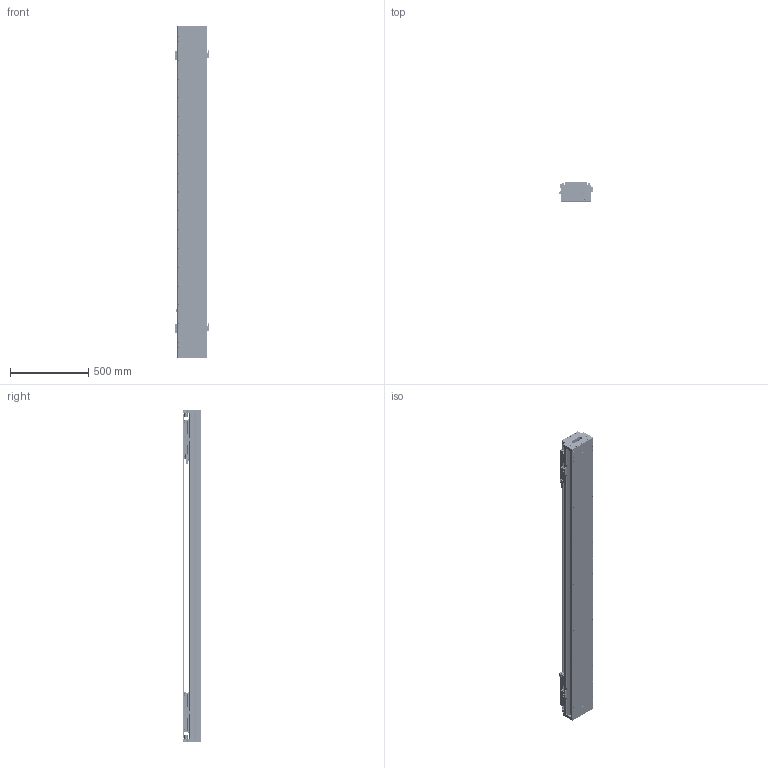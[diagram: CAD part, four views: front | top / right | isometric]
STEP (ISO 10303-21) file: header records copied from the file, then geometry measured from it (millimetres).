
FILE_DESCRIPTION (( 'STEP AP203' ), '1' );
FILE_NAME ('DKW188-2×C3-W090(T1460-L005-0.2).STEP', '2022-03-08T08:34:39', ( '微软用户' ), ( '微软中国' ), 'SwSTEP 2.0', 'SolidWorks 2018', '' );
FILE_SCHEMA (( 'CONFIG_CONTROL_DESIGN' ));
Length unit declared in the file: millimetre
Products named in the file (28): EE_SX674A; DKW188 单轴模组-拉钢带组件; 11500-0001-010-00 賑怢啣; CKM03-W090-C1C2-TP-0.2 珨极萇儂; DKW168-HYB-00 賑輸揤啣; 11899-0001-003-00 傷啣; DKW188-2×C3-W090(T1460-L005-0.2); pm-y65; DKW168-RU-DTJ-00 RU2黍杅芛盓殤; DKW168-HXJ-00 遣喳砎蝶; 10980-0001-003-00 嫖萇羲壽嘐隅釱; RUS嫖掑喜; 11899-0001-004-00 詩湍嶺輸; 嫖萇羲壽蚾饜极; Ru2; 11899-0001-005-00 詩湍揤輸; 11899-0001-001-00 菁釱; 嫖萇羲壽蚾饜极A; DKW168-HXJ-ZJ-00 笢潔滅袉砎蝶; 11899-0001-006-00 嶺輸菜輸; SSR25-DG; DKW-SG-GYP-H-00 嫖萇覜茼え; DKW-GYP-ZJ-00 笢潔嫖萇覜茼え; 砎蝶猾沭; SSR25XW1UUC1; DKW-KGZ-ZJ-00 中间光电开关支架; 11899-0001-002-00 詩湍裔啣; CKMA01-W090-TRLxxx
Assembly tree (55 placements, depth 3):
  DKW188-2×C3-W090(T1460-L005-0.2)
    11899-0001-001-00 菁釱
    SSR25-DG  x2
    SSR25XW1UUC1  x8
    CKMA01-W090-TRLxxx
    11500-0001-010-00 賑怢啣  x2
    DKW188 单轴模组-拉钢带组件
      11899-0001-003-00 傷啣  x2
      DKW168-HXJ-00 遣喳砎蝶  x4
      11899-0001-004-00 詩湍嶺輸  x2
      11899-0001-005-00 詩湍揤輸  x2
      11899-0001-006-00 嶺輸菜輸  x2
      砎蝶猾沭  x2
      11899-0001-002-00 詩湍裔啣
    DKW168-HYB-00 賑輸揤啣  x4
    嫖萇羲壽蚾饜极
      pm-y65  x2
      10980-0001-003-00 嫖萇羲壽嘐隅釱
    嫖萇羲壽蚾饜极A
      pm-y65  x2
      10980-0001-003-00 嫖萇羲壽嘐隅釱
    DKW-SG-GYP-H-00 嫖萇覜茼え  x2
    DKW168-RU-DTJ-00 RU2黍杅芛盓殤  x2
    RUS嫖掑喜
    Ru2  x2
    DKW168-HXJ-ZJ-00 笢潔滅袉砎蝶
    DKW-GYP-ZJ-00 笢潔嫖萇覜茼え
    DKW-KGZ-ZJ-00 中间光电开关支架
    EE_SX674A
    CKM03-W090-C1C2-TP-0.2 珨极萇儂  x2
Bounding box: 222.1 x 120 x 2116 mm (x, y, z)
Volume: 19045395.2 mm3; surface area: 4706563.3 mm2
Topology: 58 solids, 156 shells, 7114 faces, 18544 edges, 11763 vertices
Faces by surface type: plane 3612, cylinder 2176, cone 776, bspline 550
Entity records: 122783 total; most frequent: CARTESIAN_POINT 40748, ORIENTED_EDGE 16167, DIRECTION 15776, EDGE_CURVE 8124, AXIS2_PLACEMENT_3D 5391, VERTEX_POINT 5314, VECTOR 4994, LINE 4994
